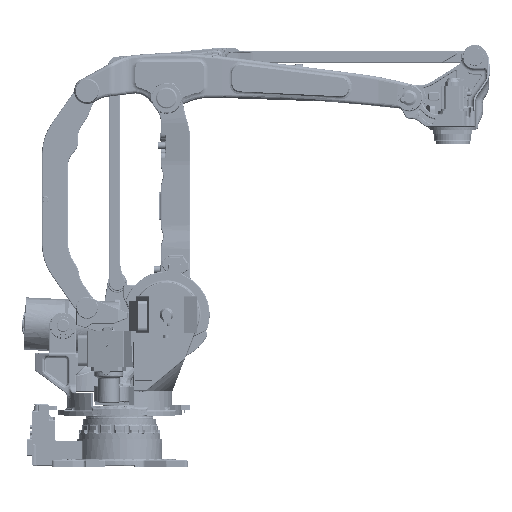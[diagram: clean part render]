
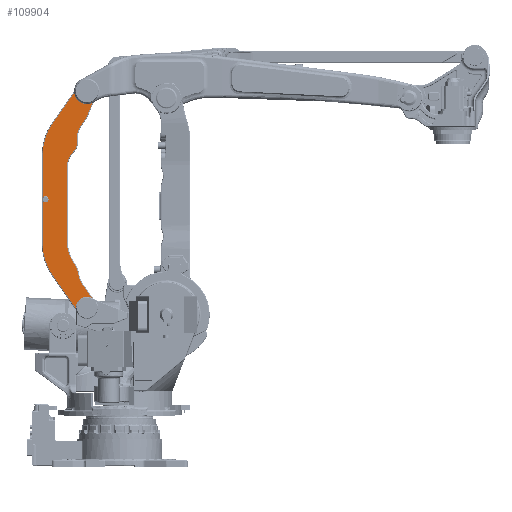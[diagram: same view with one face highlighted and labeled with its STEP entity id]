
A CAD part, front view. The second image highlights one B-rep face of the part: STEP entity #109904.
In plain terms, the highlighted planar face has unit normal (0, -1, 0).
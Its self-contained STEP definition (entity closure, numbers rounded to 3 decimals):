
#7466=B_SPLINE_CURVE_WITH_KNOTS('',3,(#249601,#249602,#249603,#249604),
 .UNSPECIFIED.,.F.,.F.,(4,4),(0.,1.),.UNSPECIFIED.);
#16665=LINE('',#249588,#21961);
#16667=LINE('',#249614,#21963);
#16669=LINE('',#249659,#21965);
#16671=LINE('',#249679,#21967);
#16673=LINE('',#249702,#21969);
#16675=LINE('',#249722,#21971);
#16686=LINE('',#250496,#21982);
#16691=LINE('',#251195,#21987);
#16692=LINE('',#251207,#21988);
#16693=LINE('',#251208,#21989);
#21961=VECTOR('',#149424,1000.);
#21963=VECTOR('',#149430,1000.);
#21965=VECTOR('',#149452,1000.);
#21967=VECTOR('',#149462,1000.);
#21969=VECTOR('',#149470,1000.);
#21971=VECTOR('',#149480,1000.);
#21982=VECTOR('',#149529,1000.);
#21987=VECTOR('',#149574,1000.);
#21988=VECTOR('',#149583,1000.);
#21989=VECTOR('',#149584,1000.);
#44839=ORIENTED_EDGE('',*,*,#67761,.F.);
#44840=ORIENTED_EDGE('',*,*,#67965,.T.);
#44841=ORIENTED_EDGE('',*,*,#67962,.F.);
#44842=ORIENTED_EDGE('',*,*,#67960,.F.);
#44843=ORIENTED_EDGE('',*,*,#67966,.F.);
#44844=ORIENTED_EDGE('',*,*,#67880,.F.);
#44845=ORIENTED_EDGE('',*,*,#67877,.F.);
#44846=ORIENTED_EDGE('',*,*,#67874,.F.);
#44847=ORIENTED_EDGE('',*,*,#67871,.F.);
#44848=ORIENTED_EDGE('',*,*,#67868,.F.);
#44849=ORIENTED_EDGE('',*,*,#67865,.F.);
#44850=ORIENTED_EDGE('',*,*,#67862,.T.);
#44851=ORIENTED_EDGE('',*,*,#67859,.F.);
#44852=ORIENTED_EDGE('',*,*,#67857,.F.);
#44853=ORIENTED_EDGE('',*,*,#67853,.F.);
#44854=ORIENTED_EDGE('',*,*,#67849,.F.);
#44855=ORIENTED_EDGE('',*,*,#67846,.F.);
#44856=ORIENTED_EDGE('',*,*,#67843,.F.);
#44857=ORIENTED_EDGE('',*,*,#67930,.F.);
#44858=ORIENTED_EDGE('',*,*,#67923,.F.);
#44859=ORIENTED_EDGE('',*,*,#67919,.F.);
#44860=ORIENTED_EDGE('',*,*,#67964,.T.);
#67761=EDGE_CURVE('',#80789,#80790,#87647,.T.);
#67843=EDGE_CURVE('',#80848,#80850,#16665,.F.);
#67846=EDGE_CURVE('',#80850,#80852,#7466,.F.);
#67849=EDGE_CURVE('',#80852,#80854,#16667,.F.);
#67853=EDGE_CURVE('',#80854,#80857,#87673,.T.);
#67857=EDGE_CURVE('',#80857,#80859,#87675,.T.);
#67859=EDGE_CURVE('',#80859,#80861,#87677,.T.);
#67862=EDGE_CURVE('',#80863,#80861,#16669,.T.);
#67865=EDGE_CURVE('',#80863,#80865,#87680,.T.);
#67868=EDGE_CURVE('',#80865,#80867,#16671,.F.);
#67871=EDGE_CURVE('',#80867,#80869,#87681,.T.);
#67874=EDGE_CURVE('',#80869,#80871,#16673,.F.);
#67877=EDGE_CURVE('',#80871,#80873,#87683,.T.);
#67880=EDGE_CURVE('',#80873,#80875,#16675,.F.);
#67919=EDGE_CURVE('',#80891,#80892,#87684,.T.);
#67923=EDGE_CURVE('',#80892,#80894,#16686,.F.);
#67930=EDGE_CURVE('',#80894,#80848,#87687,.T.);
#67960=EDGE_CURVE('',#80910,#80911,#16691,.F.);
#67962=EDGE_CURVE('',#80911,#80912,#87696,.T.);
#67964=EDGE_CURVE('',#80891,#80790,#16692,.T.);
#67965=EDGE_CURVE('',#80789,#80912,#16693,.T.);
#67966=EDGE_CURVE('',#80875,#80910,#87698,.T.);
#80789=VERTEX_POINT('',#248591);
#80790=VERTEX_POINT('',#248593);
#80848=VERTEX_POINT('',#249579);
#80850=VERTEX_POINT('',#249589);
#80852=VERTEX_POINT('',#249605);
#80854=VERTEX_POINT('',#249615);
#80857=VERTEX_POINT('',#249634);
#80859=VERTEX_POINT('',#249647);
#80861=VERTEX_POINT('',#249654);
#80863=VERTEX_POINT('',#249660);
#80865=VERTEX_POINT('',#249670);
#80867=VERTEX_POINT('',#249680);
#80869=VERTEX_POINT('',#249693);
#80871=VERTEX_POINT('',#249703);
#80873=VERTEX_POINT('',#249713);
#80875=VERTEX_POINT('',#249723);
#80891=VERTEX_POINT('',#250485);
#80892=VERTEX_POINT('',#250486);
#80894=VERTEX_POINT('',#250497);
#80910=VERTEX_POINT('',#251188);
#80911=VERTEX_POINT('',#251196);
#80912=VERTEX_POINT('',#251204);
#87647=CIRCLE('',#128897,18.);
#87673=CIRCLE('',#128953,104.999);
#87675=CIRCLE('',#128956,95.);
#87677=CIRCLE('',#128959,105.);
#87680=CIRCLE('',#128964,205.);
#87681=CIRCLE('',#128967,95.);
#87683=CIRCLE('',#128971,105.);
#87684=CIRCLE('',#128988,305.);
#87687=CIRCLE('',#128993,64.);
#87696=CIRCLE('',#129013,305.);
#87698=CIRCLE('',#129017,64.);
#93532=EDGE_LOOP('',(#44839,#44840,#44841,#44842,#44843,#44844,#44845,#44846,
#44847,#44848,#44849,#44850,#44851,#44852,#44853,#44854,#44855,#44856,#44857,
#44858,#44859,#44860));
#101030=FACE_BOUND('',#93532,.T.);
#104933=PLANE('',#129016);
#109904=ADVANCED_FACE('',(#101030),#104933,.F.);
#128897=AXIS2_PLACEMENT_3D('',#248592,#149305,#149306);
#128953=AXIS2_PLACEMENT_3D('',#249633,#149433,#149434);
#128956=AXIS2_PLACEMENT_3D('',#249649,#149439,#149440);
#128959=AXIS2_PLACEMENT_3D('',#249653,#149445,#149446);
#128964=AXIS2_PLACEMENT_3D('',#249669,#149457,#149458);
#128967=AXIS2_PLACEMENT_3D('',#249692,#149465,#149466);
#128971=AXIS2_PLACEMENT_3D('',#249712,#149475,#149476);
#128988=AXIS2_PLACEMENT_3D('',#250484,#149521,#149522);
#128993=AXIS2_PLACEMENT_3D('',#250738,#149532,#149533);
#129013=AXIS2_PLACEMENT_3D('',#251203,#149577,#149578);
#129016=AXIS2_PLACEMENT_3D('',#251209,#149585,#149586);
#129017=AXIS2_PLACEMENT_3D('',#251210,#149587,#149588);
#149305=DIRECTION('',(0.,-1.,0.));
#149306=DIRECTION('',(0.,0.,-1.));
#149424=DIRECTION('',(0.382,0.,0.924));
#149430=DIRECTION('',(0.574,0.,0.819));
#149433=DIRECTION('',(0.,-1.,0.));
#149434=DIRECTION('',(0.,0.,-1.));
#149439=DIRECTION('',(0.,1.,0.));
#149440=DIRECTION('',(0.,0.,1.));
#149445=DIRECTION('',(0.,-1.,0.));
#149446=DIRECTION('',(0.,0.,-1.));
#149452=DIRECTION('',(0.,0.,1.));
#149457=DIRECTION('',(0.,-1.,0.));
#149458=DIRECTION('',(0.,0.,-1.));
#149462=DIRECTION('',(-0.574,0.,0.819));
#149465=DIRECTION('',(0.,1.,0.));
#149466=DIRECTION('',(0.,0.,1.));
#149470=DIRECTION('',(-0.228,0.,0.974));
#149475=DIRECTION('',(0.,-1.,0.));
#149476=DIRECTION('',(0.,0.,-1.));
#149480=DIRECTION('',(-0.574,0.,0.819));
#149521=DIRECTION('',(0.,1.,0.));
#149522=DIRECTION('',(0.,0.,1.));
#149529=DIRECTION('',(-0.574,0.,-0.819));
#149532=DIRECTION('',(0.,-1.,0.));
#149533=DIRECTION('',(0.,0.,-1.));
#149574=DIRECTION('',(0.574,0.,-0.819));
#149577=DIRECTION('',(0.,1.,0.));
#149578=DIRECTION('',(0.,0.,1.));
#149583=DIRECTION('',(0.,0.,-1.));
#149584=DIRECTION('',(0.,0.,-1.));
#149585=DIRECTION('',(0.,1.,0.));
#149586=DIRECTION('',(-1.,0.,0.));
#149587=DIRECTION('',(0.,-1.,0.));
#149588=DIRECTION('',(0.,0.,-1.));
#248591=CARTESIAN_POINT('',(-443.25,-113.5,1535.142));
#248592=CARTESIAN_POINT('',(-428.25,-113.5,1545.092));
#248593=CARTESIAN_POINT('',(-443.25,-113.5,1555.042));
#249579=CARTESIAN_POINT('',(-149.943,-113.5,2118.821));
#249588=CARTESIAN_POINT('',(-169.292,-113.5,2072.067));
#249589=CARTESIAN_POINT('',(-188.675,-113.5,2025.228));
#249601=CARTESIAN_POINT('',(-198.636,-113.5,2007.064));
#249602=CARTESIAN_POINT('',(-194.665,-113.5,2012.738));
#249603=CARTESIAN_POINT('',(-191.324,-113.5,2018.828));
#249604=CARTESIAN_POINT('',(-188.675,-113.5,2025.228));
#249605=CARTESIAN_POINT('',(-198.636,-113.5,2007.064));
#249614=CARTESIAN_POINT('',(-212.316,-113.5,1987.528));
#249615=CARTESIAN_POINT('',(-225.82,-113.5,1968.243));
#249633=CARTESIAN_POINT('',(-139.809,-113.5,1908.017));
#249634=CARTESIAN_POINT('',(-243.99,-113.5,1894.931));
#249647=CARTESIAN_POINT('',(-271.75,-113.5,1815.248));
#249649=CARTESIAN_POINT('',(-338.249,-113.5,1883.092));
#249653=CARTESIAN_POINT('',(-198.25,-113.5,1740.263));
#249654=CARTESIAN_POINT('',(-303.25,-113.5,1740.263));
#249659=CARTESIAN_POINT('',(-303.25,-113.5,1517.523));
#249660=CARTESIAN_POINT('',(-303.25,-113.5,1297.158));
#249669=CARTESIAN_POINT('',(-98.25,-113.5,1297.158));
#249670=CARTESIAN_POINT('',(-266.176,-113.5,1179.575));
#249679=CARTESIAN_POINT('',(-262.471,-113.5,1174.283));
#249680=CARTESIAN_POINT('',(-258.722,-113.5,1168.93));
#249692=CARTESIAN_POINT('',(-336.542,-113.5,1114.441));
#249693=CARTESIAN_POINT('',(-244.051,-113.5,1136.132));
#249702=CARTESIAN_POINT('',(-239.059,-113.5,1114.844));
#249703=CARTESIAN_POINT('',(-234.402,-113.5,1094.987));
#249712=CARTESIAN_POINT('',(-132.176,-113.5,1118.961));
#249713=CARTESIAN_POINT('',(-218.187,-113.5,1058.736));
#249722=CARTESIAN_POINT('',(-190.073,-113.5,1018.585));
#249723=CARTESIAN_POINT('',(-161.967,-113.5,978.446));
#250484=CARTESIAN_POINT('',(-138.25,-113.5,1805.637));
#250485=CARTESIAN_POINT('',(-443.249,-113.5,1805.637));
#250486=CARTESIAN_POINT('',(-388.091,-113.5,1980.578));
#250496=CARTESIAN_POINT('',(-320.077,-113.5,2077.712));
#250497=CARTESIAN_POINT('',(-252.074,-113.5,2174.831));
#250738=CARTESIAN_POINT('',(-188.25,-113.5,2170.091));
#251188=CARTESIAN_POINT('',(-252.074,-113.5,915.353));
#251195=CARTESIAN_POINT('',(-320.053,-113.5,1012.436));
#251196=CARTESIAN_POINT('',(-388.091,-113.5,1109.605));
#251203=CARTESIAN_POINT('',(-138.25,-113.5,1284.546));
#251204=CARTESIAN_POINT('',(-443.249,-113.5,1284.546));
#251207=CARTESIAN_POINT('',(-443.249,-113.5,1545.092));
#251208=CARTESIAN_POINT('',(-443.249,-113.5,1545.092));
#251209=CARTESIAN_POINT('',(-296.596,-113.5,1545.092));
#251210=CARTESIAN_POINT('',(-188.25,-113.5,920.091));
